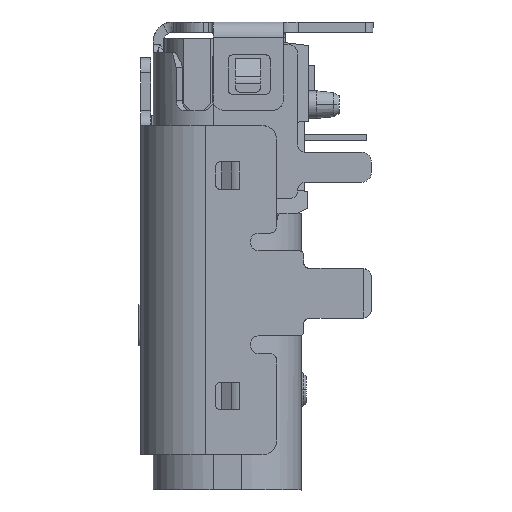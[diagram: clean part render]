
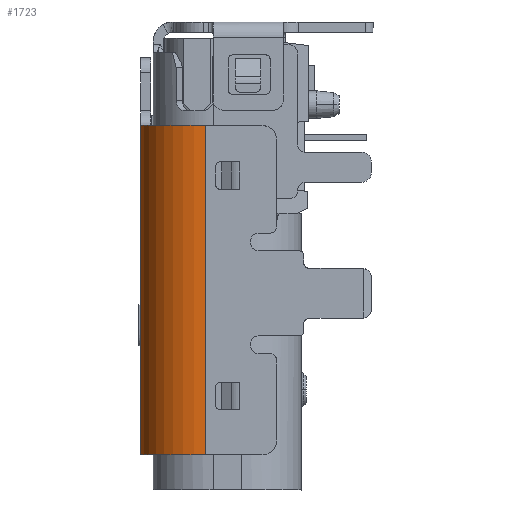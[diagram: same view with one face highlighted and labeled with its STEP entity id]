
A CAD part, left-side view. The second image highlights one B-rep face of the part: STEP entity #1723.
In plain terms, the highlighted cylindrical face has radius 1.3 mm (diameter 2.6 mm), a partial arc.
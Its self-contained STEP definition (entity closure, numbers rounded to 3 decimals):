
#26 = LINE ( 'NONE', #35706, #22931 ) ;
#920 = EDGE_LOOP ( 'NONE', ( #16706, #6561, #15791, #29064 ) ) ;
#1723 = ADVANCED_FACE ( 'NONE', ( #18960 ), #23911, .T. ) ;
#3933 = VERTEX_POINT ( 'NONE', #48161 ) ;
#6561 = ORIENTED_EDGE ( 'NONE', *, *, #11460, .F. ) ;
#8139 = EDGE_CURVE ( 'NONE', #16410, #52666, #46280, .T. ) ;
#11460 = EDGE_CURVE ( 'NONE', #3933, #52666, #26, .T. ) ;
#12359 = DIRECTION ( 'NONE',  ( 0., 1., 0. ) ) ;
#15791 = ORIENTED_EDGE ( 'NONE', *, *, #47980, .T. ) ;
#16410 = VERTEX_POINT ( 'NONE', #28018 ) ;
#16706 = ORIENTED_EDGE ( 'NONE', *, *, #8139, .T. ) ;
#16960 = DIRECTION ( 'NONE',  ( -1., 0., 0. ) ) ;
#18464 = DIRECTION ( 'NONE',  ( 0., 0., 1. ) ) ;
#18960 = FACE_OUTER_BOUND ( 'NONE', #920, .T. ) ;
#20159 = AXIS2_PLACEMENT_3D ( 'NONE', #43863, #25725, #16960 ) ;
#22931 = VECTOR ( 'NONE', #18464, 1000. ) ;
#23911 = CYLINDRICAL_SURFACE ( 'NONE', #39526, 1.3 ) ;
#24277 = EDGE_CURVE ( 'NONE', #16410, #28882, #55788, .T. ) ;
#25725 = DIRECTION ( 'NONE',  ( 0., 0., -1. ) ) ;
#28018 = CARTESIAN_POINT ( 'NONE',  ( 41.839, -0.785, -23.009 ) ) ;
#28882 = VERTEX_POINT ( 'NONE', #34758 ) ;
#28885 = DIRECTION ( 'NONE',  ( -1., 0., 0. ) ) ;
#29064 = ORIENTED_EDGE ( 'NONE', *, *, #24277, .F. ) ;
#29398 = DIRECTION ( 'NONE',  ( 0., 0., -1. ) ) ;
#34758 = CARTESIAN_POINT ( 'NONE',  ( 41.839, -0.785, -29.584 ) ) ;
#34848 = CIRCLE ( 'NONE', #42312, 1.3 ) ;
#35706 = CARTESIAN_POINT ( 'NONE',  ( 43.139, 0.515, -29.584 ) ) ;
#39526 = AXIS2_PLACEMENT_3D ( 'NONE', #42045, #54659, #28885 ) ;
#42045 = CARTESIAN_POINT ( 'NONE',  ( 43.139, -0.785, -22.878 ) ) ;
#42312 = AXIS2_PLACEMENT_3D ( 'NONE', #56866, #51065, #12359 ) ;
#43863 = CARTESIAN_POINT ( 'NONE',  ( 43.139, -0.785, -23.009 ) ) ;
#46148 = CARTESIAN_POINT ( 'NONE',  ( 43.139, 0.515, -23.009 ) ) ;
#46280 = CIRCLE ( 'NONE', #20159, 1.3 ) ;
#47980 = EDGE_CURVE ( 'NONE', #3933, #28882, #34848, .T. ) ;
#48161 = CARTESIAN_POINT ( 'NONE',  ( 43.139, 0.515, -29.584 ) ) ;
#51065 = DIRECTION ( 'NONE',  ( 0., 0., 1. ) ) ;
#52666 = VERTEX_POINT ( 'NONE', #46148 ) ;
#54380 = VECTOR ( 'NONE', #29398, 1000. ) ;
#54659 = DIRECTION ( 'NONE',  ( 0., 0., -1. ) ) ;
#55788 = LINE ( 'NONE', #56075, #54380 ) ;
#56075 = CARTESIAN_POINT ( 'NONE',  ( 41.839, -0.785, -23.009 ) ) ;
#56866 = CARTESIAN_POINT ( 'NONE',  ( 43.139, -0.785, -29.584 ) ) ;
